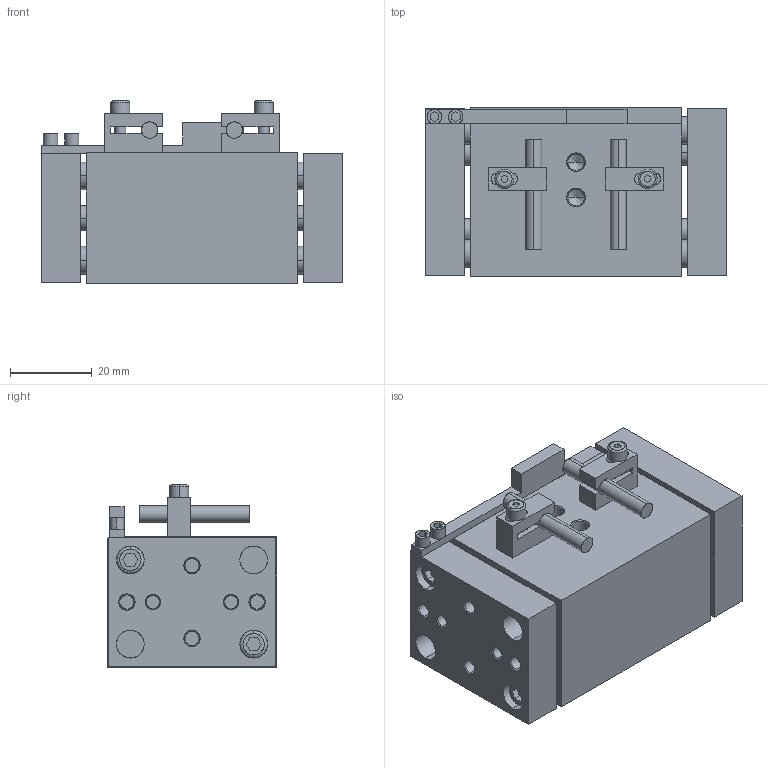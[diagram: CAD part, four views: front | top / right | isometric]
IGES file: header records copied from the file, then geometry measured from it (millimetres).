
Start section: SolidWorks IGES file using analytic representation for surfaces
Global section: file name: C:\Users\jmkuhnes\Pictures\AGW-250\AGW-250 CLOSED in IN.IGS; native system: SolidWorks 2013; preprocessor: SolidWorks 2013; author: jmkuhnes; date: 141103.083852; units: inch
Bounding box: 73.66 x 41.27 x 44.45 mm (x, y, z)
Surface area: 38953.2 mm2 (no closed solid volume)
Topology: 0 solids, 0 shells, 370 faces, 5300 edges, 5284 vertices
Faces by surface type: revolution 194, bspline 176
